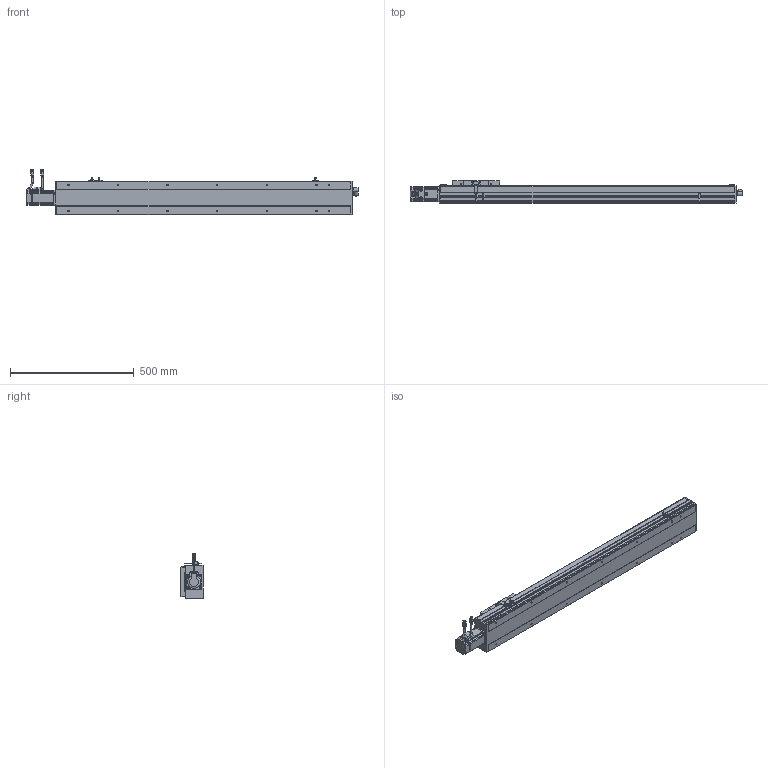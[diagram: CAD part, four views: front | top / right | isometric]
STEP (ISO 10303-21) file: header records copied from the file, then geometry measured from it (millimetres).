
FILE_DESCRIPTION(/* description */ ('STEP AP214'),/* implementation_level */ '2;1');
FILE_NAME(/* name */ 'PSC140-L05-S900-BC-P40-C1-N(0)',/* time_stamp */ '2022-06-13T03:16:09+02:00',/* author */ ('License CC BY-ND 4.0'),/* organization */ ('CADENAS'),/* preprocessor_version */ 'ST-DEVELOPER v18.102',/* originating_system */ 'PARTsolutions',/* authorisation */ ' ');
FILE_SCHEMA (('AUTOMOTIVE_DESIGN {1 0 10303 214 3 1 1}'));
Length unit declared in the file: millimetre
Products named in the file (10): PSC140-L05-S900-BC-P40-C1-N(0); P40-s2; P40-c2; P40-s1; P40-c1; P40-p1; PSC140-sensor; PSC140-BC-SLIDER; PSC140-S900-BC-P40-C1_BODY1; PSC140-L05-S900-BC-P40-C1-N(0)_dummy
Assembly tree (11 placements, depth 2):
  PSC140-L05-S900-BC-P40-C1-N(0)
    P40-s2
    P40-c2
    P40-s1
    P40-c1
    P40-p1
    PSC140-sensor  x3
    PSC140-BC-SLIDER
    PSC140-S900-BC-P40-C1_BODY1
    PSC140-L05-S900-BC-P40-C1-N(0)_dummy
Bounding box: 1339 x 91 x 182.48 mm (x, y, z)
Volume: 12084773.7 mm3; surface area: 695434 mm2
Topology: 10 solids, 10 shells, 1256 faces, 3230 edges, 2133 vertices
Faces by surface type: plane 868, cylinder 319, cone 50, torus 19
Full cylindrical faces by diameter (mm): 1 x8, 2.6 x10, 2.8 x3, 3.3 x8, 4.5 x12, 4.6 x3, 4.917 x18, 5 x4, 5.5 x8, 6 x10, 6.08 x4, 7 x10, 9 x2, 10 x1, 11 x1, 13.74 x1, 14 x1, 16.4 x2, 16.5 x1, 19.98 x1, 31.98 x1, 35.5 x1, 50 x2
Entity records: 34598 total; most frequent: CARTESIAN_POINT 6037, DIRECTION 5827, ORIENTED_EDGE 5594, EDGE_CURVE 2797, LINE 2109, VECTOR 2109, VERTEX_POINT 1954, AXIS2_PLACEMENT_3D 1859
